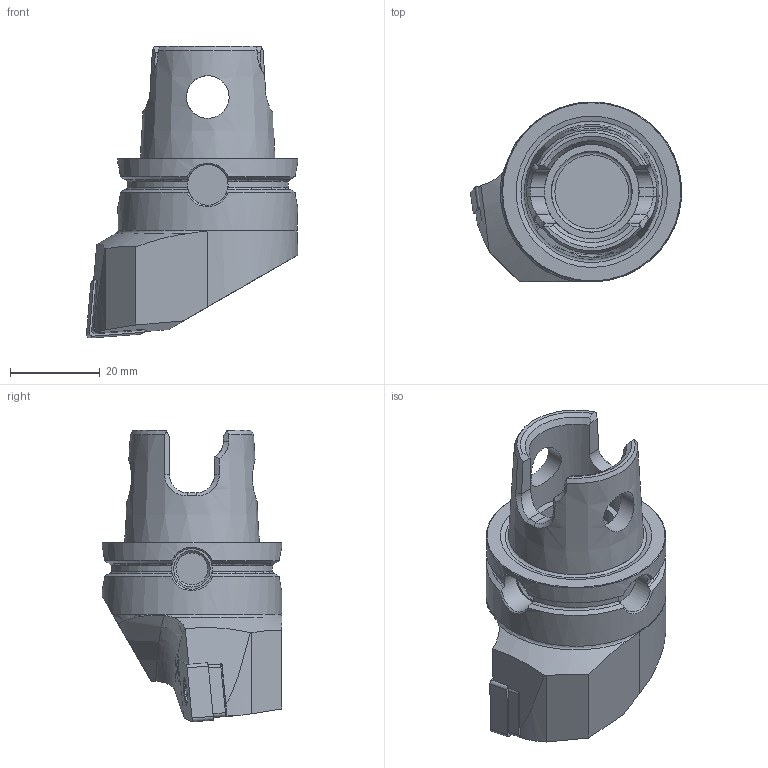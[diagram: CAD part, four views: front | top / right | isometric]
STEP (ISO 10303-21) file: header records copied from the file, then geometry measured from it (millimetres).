
FILE_DESCRIPTION((''),'2;1');
FILE_NAME('C:\Users\drh\Desktop\Presentation\Mating\Holder.STP','2018-05-23T10:46:46',(''),(''),'STEP Write','Mastercam 2019 ... CNC Software, Inc.','');
FILE_SCHEMA(('AUTOMOTIVE_DESIGN'));
Length unit declared in the file: inch
Products named in the file (1): None
Bounding box: 46.98 x 39.98 x 64.95 mm (x, y, z)
Volume: 42334.5 mm3; surface area: 11539.3 mm2
Topology: 2 solids, 2 shells, 225 faces, 608 edges, 396 vertices
Faces by surface type: plane 80, cylinder 77, cone 35, bspline 21, torus 12
Full cylindrical faces by diameter (mm): 5.156 x1, 5.6 x1, 6.73 x1, 7.1 x1, 9.045 x4, 9.5 x2, 18 x1, 21.05 x1, 39.95 x2
Entity records: 14518 total; most frequent: CARTESIAN_POINT 8971, ORIENTED_EDGE 1132, DIRECTION 1031, EDGE_CURVE 566, AXIS2_PLACEMENT_3D 415, VERTEX_POINT 380, EDGE_LOOP 270, STYLED_ITEM 228
